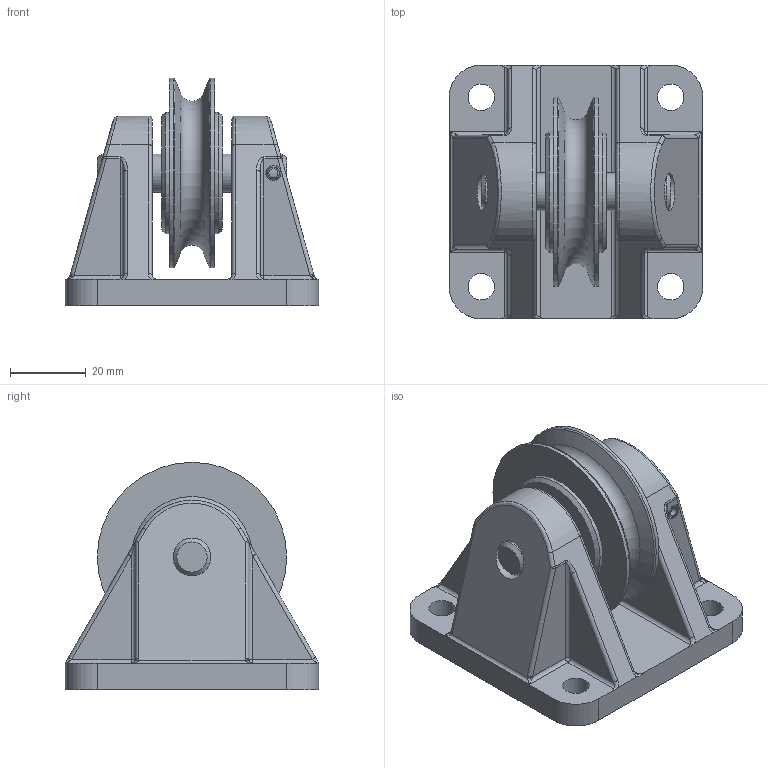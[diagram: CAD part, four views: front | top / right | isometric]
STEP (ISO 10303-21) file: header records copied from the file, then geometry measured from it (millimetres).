
FILE_DESCRIPTION(/* description */ ('Seilrollenbock ø50 Guß komplett'),/* implementation_level */ '2;1');
FILE_NAME(/* name */ 'Z:\Workspace\03 Seilrollen\1.403 Seilrollenbock Guß Gleitlager\1.403.01 Seilrollenbock ø50 Guß Gleitlager\1.403.01 Seilrollenbock ø50 Guß komplett.stp',/* time_stamp */ '2021-10-04T14:08:04+02:00',/* author */ ('cad-user'),/* organization */ (''),/* preprocessor_version */ 'ST-DEVELOPER v18',/* originating_system */ 'Autodesk Inventor 2020',/* authorisation */ '');
FILE_SCHEMA (('AUTOMOTIVE_DESIGN { 1 0 10303 214 3 1 1 }'));
Length unit declared in the file: millimetre
Products named in the file (6): 1.403.01 Seilrollenbock ø50 Guß komplett; 1.403.01.01 Seilrollenbock ø50 Gußteil; 1.403.01.02 Stange; IFI 512-S - 4; 1.401.01 Seilrolle ø50 Buchse; Lagerbuchse 1015-DU
Assembly tree (5 placements, depth 2):
  1.403.01 Seilrollenbock ø50 Guß komplett
    1.403.01.01 Seilrollenbock ø50 Gußteil
    1.403.01.02 Stange
    IFI 512-S - 4
    1.401.01 Seilrolle ø50 Buchse
    Lagerbuchse 1015-DU
Bounding box: 67 x 67 x 60 mm (x, y, z)
Volume: 99487.9 mm3; surface area: 30517.6 mm2
Topology: 5 solids, 5 shells, 143 faces, 354 edges, 217 vertices
Faces by surface type: cylinder 60, plane 36, bspline 22, cone 12, sphere 8, torus 5
Full cylindrical faces by diameter (mm): 4 x2, 7 x4, 10 x4, 12 x1, 32 x2, 50 x2
Entity records: 5310 total; most frequent: CARTESIAN_POINT 1634, DIRECTION 778, ORIENTED_EDGE 700, EDGE_CURVE 350, AXIS2_PLACEMENT_3D 320, VERTEX_POINT 217, EDGE_LOOP 163, FACE_OUTER_BOUND 143
